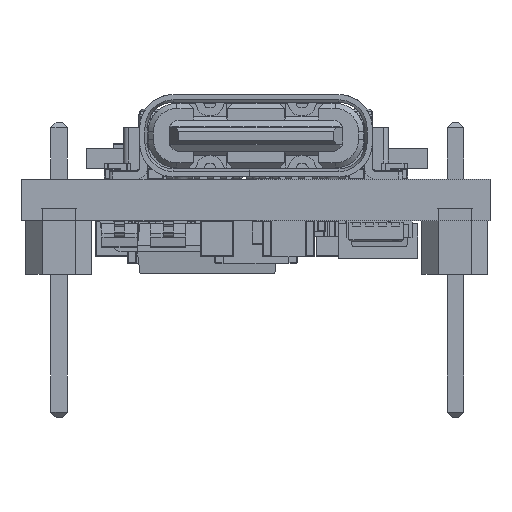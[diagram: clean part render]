
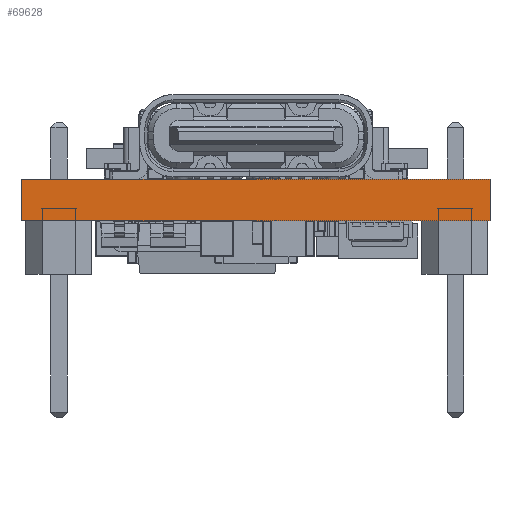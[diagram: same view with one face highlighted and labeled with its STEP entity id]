
A CAD part, front view. The second image highlights one B-rep face of the part: STEP entity #69628.
In plain terms, the highlighted planar face has unit normal (0, -1, 0).
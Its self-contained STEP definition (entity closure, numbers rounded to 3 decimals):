
#5107=PLANE('',#74471);
#7852=FACE_OUTER_BOUND('',#11885,.T.);
#11885=EDGE_LOOP('',(#49659,#49660,#49661,#49662));
#16162=LINE('',#100822,#23758);
#16163=LINE('',#100825,#23759);
#16164=LINE('',#100827,#23760);
#16165=LINE('',#100828,#23761);
#23758=VECTOR('',#80912,10.);
#23759=VECTOR('',#80915,10.);
#23760=VECTOR('',#80916,10.);
#23761=VECTOR('',#80917,10.);
#33364=VERTEX_POINT('',#100818);
#33365=VERTEX_POINT('',#100820);
#33366=VERTEX_POINT('',#100824);
#33367=VERTEX_POINT('',#100826);
#39897=EDGE_CURVE('',#33364,#33365,#16162,.T.);
#39898=EDGE_CURVE('',#33366,#33364,#16163,.T.);
#39899=EDGE_CURVE('',#33367,#33365,#16164,.T.);
#39900=EDGE_CURVE('',#33366,#33367,#16165,.T.);
#49659=ORIENTED_EDGE('',*,*,#39898,.T.);
#49660=ORIENTED_EDGE('',*,*,#39897,.T.);
#49661=ORIENTED_EDGE('',*,*,#39899,.F.);
#49662=ORIENTED_EDGE('',*,*,#39900,.F.);
#69628=ADVANCED_FACE('',(#7852),#5107,.T.);
#74471=AXIS2_PLACEMENT_3D('',#100823,#80913,#80914);
#80912=DIRECTION('',(0.,0.,1.));
#80913=DIRECTION('center_axis',(0.,-1.,0.));
#80914=DIRECTION('ref_axis',(1.,0.,0.));
#80915=DIRECTION('',(1.,0.,0.));
#80916=DIRECTION('',(1.,0.,0.));
#80917=DIRECTION('',(0.,0.,1.));
#100818=CARTESIAN_POINT('',(18.,0.,0.));
#100820=CARTESIAN_POINT('',(18.,0.,1.601));
#100822=CARTESIAN_POINT('',(18.,0.,0.));
#100823=CARTESIAN_POINT('Origin',(0.,0.,0.));
#100824=CARTESIAN_POINT('',(0.,0.,0.));
#100825=CARTESIAN_POINT('',(0.,0.,0.));
#100826=CARTESIAN_POINT('',(0.,0.,1.601));
#100827=CARTESIAN_POINT('',(0.,0.,1.601));
#100828=CARTESIAN_POINT('',(0.,0.,0.));
